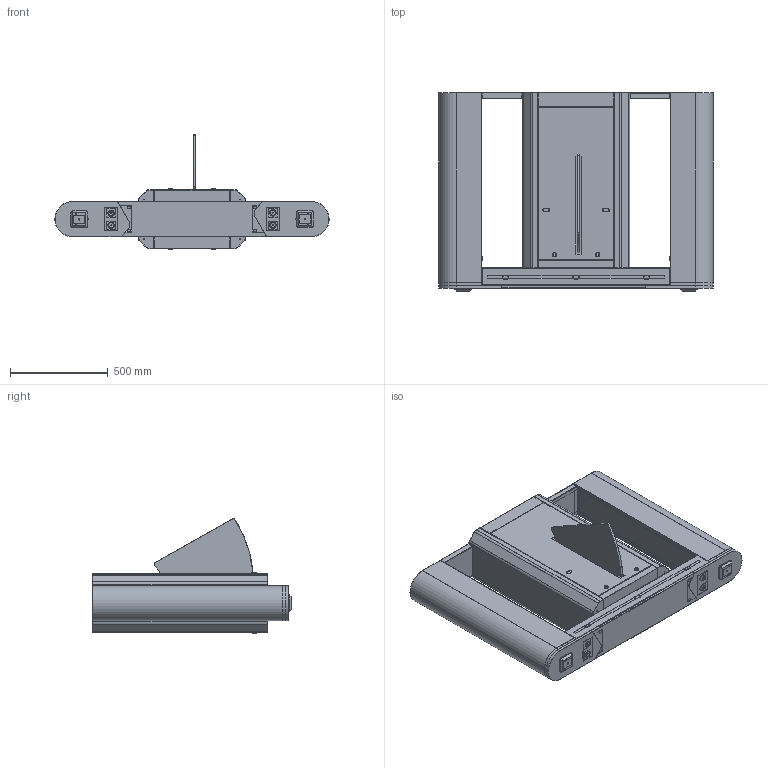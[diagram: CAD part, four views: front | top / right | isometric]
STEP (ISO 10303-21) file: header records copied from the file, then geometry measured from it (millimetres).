
FILE_DESCRIPTION((''),'2;1');
FILE_NAME('SBTM1000-DAN___ASM_1_ASM','2021-01-22T',('Administrator'),(''),'PRO/ENGINEER BY PARAMETRIC TECHNOLOGY CORPORATION, 2012090','PRO/ENGINEER BY PARAMETRIC TECHNOLOGY CORPORATION, 2012090','');
FILE_SCHEMA(('CONFIG_CONTROL_DESIGN'));
Length unit declared in the file: millimetre
Products named in the file (40): STBM-021_1DAN___1; SHOTDAN___1; STBM-021_1DAN__KK__1; TOP-KK-SBTM5000ASADXSDC_KK__2; SBTM5_1DANAA___ASM_3_ASM; SBTM5_1DAN___ASM_1_ASM; SBTM013-1DAN___1; STBM-014_1DAN___1; STBM-017_1DAN___1_ASM; 0LZ-DZ-1__1; STBM-012_1DAN___1; STBM-005_1DAN___1; TS1000-A23__1; STBM-LOCK_1DAN___ASM_1_ASM; SBTM4_1DAN___ASM_1_ASM; 0123YKL-DGT__1; YKL-KK-430_AAA__2; ASM6000DDK_AAA__ASM_1_ASM; R400-B-S-R574AAA_AAA__1; PRT0125AA__1; ASM0MB777AAAAA__ASM_1_ASM; SBTM8_1DAN___AF0_ASM_1_ASM; STBM-016_1DAN___1; SBTM8_1DAN___AF1_ASM_1_ASM; CP_DDJA_SKEL___1; CP_DDJA-1___1; CP_DDJA-2___1; JX-LYJ__2; JX-Z__1; JX-Z02__1; JZ-Z04__1; JZ-Z03__1; 0JZ-MEN__ASM_1_ASM; CP_DDJA___ASM_1_ASM; TMYKLYB__1; XJX-ALL__ASM_1_ASM; 0JZ-Z03__1; JZ-MEN__ASM_2_ASM; YKL-KK-WKKK_AAA__2; SBTM1000-DAN___ASM_1_ASM
Assembly tree (61 placements, depth 5):
  SBTM1000-DAN___ASM_1_ASM
    SBTM5_1DAN___ASM_1_ASM
      STBM-021_1DAN___1
      SHOTDAN___1  x3
      SBTM5_1DANAA___ASM_3_ASM
        STBM-021_1DAN__KK__1
        TOP-KK-SBTM5000ASADXSDC_KK__2
    SBTM8_1DAN___AF0_ASM_1_ASM
      SBTM013-1DAN___1
      STBM-014_1DAN___1
      STBM-017_1DAN___1_ASM
      0LZ-DZ-1__1
      SBTM4_1DAN___ASM_1_ASM
        STBM-012_1DAN___1
        STBM-LOCK_1DAN___ASM_1_ASM
          STBM-005_1DAN___1
          TS1000-A23__1
      0123YKL-DGT__1
      ASM0MB777AAAAA__ASM_1_ASM
        ASM6000DDK_AAA__ASM_1_ASM
          YKL-KK-430_AAA__2
        R400-B-S-R574AAA_AAA__1
        PRT0125AA__1
    SBTM8_1DAN___AF1_ASM_1_ASM
      SBTM013-1DAN___1
      STBM-016_1DAN___1
      STBM-014_1DAN___1
      STBM-017_1DAN___1_ASM
      0LZ-DZ-1__1
      SBTM4_1DAN___ASM_1_ASM
        STBM-012_1DAN___1
        STBM-LOCK_1DAN___ASM_1_ASM
          STBM-005_1DAN___1
          TS1000-A23__1
      0123YKL-DGT__1
      ASM0MB777AAAAA__ASM_1_ASM
        ASM6000DDK_AAA__ASM_1_ASM
          YKL-KK-430_AAA__2
        R400-B-S-R574AAA_AAA__1
        PRT0125AA__1
    CP_DDJA___ASM_1_ASM
      CP_DDJA_SKEL___1
      CP_DDJA-1___1  x2
      CP_DDJA-2___1  x2
      JX-LYJ__2  x2
      JX-Z__1  x2
      JX-Z02__1  x2
      JZ-Z04__1  x3
      0JZ-MEN__ASM_1_ASM
        JZ-Z03__1
        STBM-LOCK_1DAN___ASM_1_ASM  x2
          STBM-005_1DAN___1
          TS1000-A23__1
        SHOTDAN___1  x2
    XJX-ALL__ASM_1_ASM
      TMYKLYB__1
    JZ-MEN__ASM_2_ASM
      0JZ-Z03__1
      STBM-LOCK_1DAN___ASM_1_ASM  x2
        STBM-005_1DAN___1
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Bounding box: 1400 x 1013.7 x 586.01 mm (x, y, z)
Volume: 15432461.5 mm3; surface area: 10016989.5 mm2
Topology: 55 solids, 57 shells, 4120 faces, 10599 edges, 6628 vertices
Faces by surface type: plane 2619, cylinder 1367, cone 48, bspline 40, torus 30, sphere 16
Entity records: 75836 total; most frequent: CARTESIAN_POINT 14192, DIRECTION 12997, ORIENTED_EDGE 12418, EDGE_CURVE 6213, VECTOR 4365, LINE 4365, AXIS2_PLACEMENT_3D 4316, VERTEX_POINT 3857
